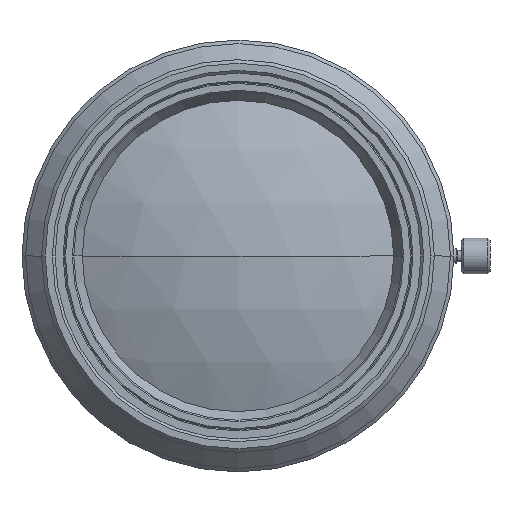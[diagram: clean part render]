
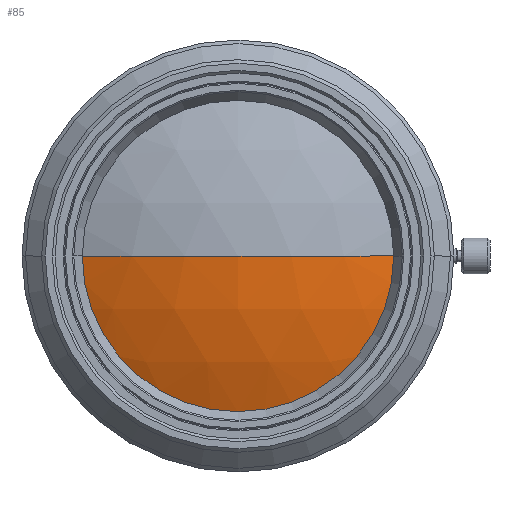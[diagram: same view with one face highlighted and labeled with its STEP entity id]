
A CAD part, left-side view. The second image highlights one B-rep face of the part: STEP entity #85.
In plain terms, the highlighted spherical face has radius 55.33 mm.
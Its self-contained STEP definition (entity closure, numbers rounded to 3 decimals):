
#16 = AXIS2_PLACEMENT_3D ( 'NONE', #262, #564, #814 ) ;
#85 = ADVANCED_FACE ( 'NONE', ( #149 ), #1928, .T. ) ;
#92 = CARTESIAN_POINT ( 'NONE',  ( -143.18, 0., 0. ) ) ;
#149 = FACE_OUTER_BOUND ( 'NONE', #3265, .T. ) ;
#212 = DIRECTION ( 'NONE',  ( 0., 0., -1. ) ) ;
#262 = CARTESIAN_POINT ( 'NONE',  ( -143.18, 0., 0. ) ) ;
#427 = ORIENTED_EDGE ( 'NONE', *, *, #1193, .T. ) ;
#488 = EDGE_CURVE ( 'NONE', #1227, #2282, #3281, .T. ) ;
#564 = DIRECTION ( 'NONE',  ( 0., 0., -1. ) ) ;
#710 = CIRCLE ( 'NONE', #3162, 21.9 ) ;
#814 = DIRECTION ( 'NONE',  ( 0., 1., 0. ) ) ;
#816 = CIRCLE ( 'NONE', #16, 55.33 ) ;
#961 = VERTEX_POINT ( 'NONE', #1752 ) ;
#1030 = AXIS2_PLACEMENT_3D ( 'NONE', #1156, #3271, #1190 ) ;
#1097 = CARTESIAN_POINT ( 'NONE',  ( -193.991, 0., 0. ) ) ;
#1156 = CARTESIAN_POINT ( 'NONE',  ( -143.18, 0., 0. ) ) ;
#1190 = DIRECTION ( 'NONE',  ( 1., 0., 0. ) ) ;
#1193 = EDGE_CURVE ( 'NONE', #961, #2282, #816, .T. ) ;
#1227 = VERTEX_POINT ( 'NONE', #2630 ) ;
#1752 = CARTESIAN_POINT ( 'NONE',  ( -193.991, -21.9, 0. ) ) ;
#1896 = ORIENTED_EDGE ( 'NONE', *, *, #488, .F. ) ;
#1928 = SPHERICAL_SURFACE ( 'NONE', #3230, 55.33 ) ;
#2156 = DIRECTION ( 'NONE',  ( 0., -1., 0. ) ) ;
#2282 = VERTEX_POINT ( 'NONE', #3163 ) ;
#2379 = EDGE_CURVE ( 'NONE', #1227, #961, #710, .T. ) ;
#2630 = CARTESIAN_POINT ( 'NONE',  ( -193.991, 21.9, 0. ) ) ;
#2693 = ORIENTED_EDGE ( 'NONE', *, *, #2379, .T. ) ;
#2955 = DIRECTION ( 'NONE',  ( -1., 0., 0. ) ) ;
#2970 = DIRECTION ( 'NONE',  ( 0., 1., 0. ) ) ;
#3162 = AXIS2_PLACEMENT_3D ( 'NONE', #1097, #2955, #2156 ) ;
#3163 = CARTESIAN_POINT ( 'NONE',  ( -198.51, 0., 0. ) ) ;
#3230 = AXIS2_PLACEMENT_3D ( 'NONE', #92, #212, #2970 ) ;
#3265 = EDGE_LOOP ( 'NONE', ( #2693, #427, #1896 ) ) ;
#3271 = DIRECTION ( 'NONE',  ( 0., 0., 1. ) ) ;
#3281 = CIRCLE ( 'NONE', #1030, 55.33 ) ;
